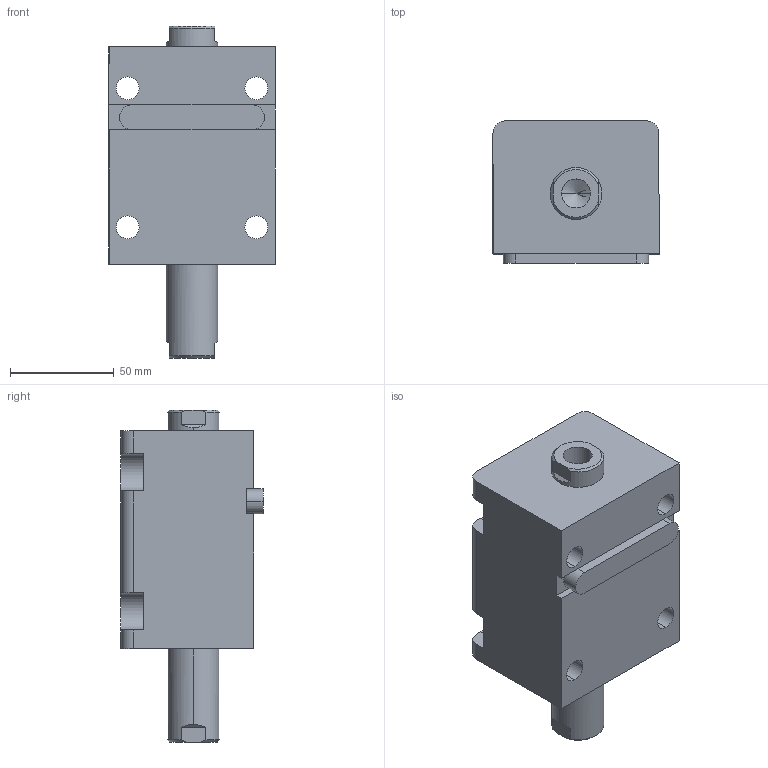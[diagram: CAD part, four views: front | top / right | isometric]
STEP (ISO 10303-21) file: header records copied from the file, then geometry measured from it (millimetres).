
FILE_DESCRIPTION (( 'STEP AP203' ), '1' );
FILE_NAME ('HTB-LW40-35N.STEP', '2019-10-09T07:55:00', ( '微软用户' ), ( '微软中国' ), 'SwSTEP 2.0', 'SolidWorks 2012', '' );
FILE_SCHEMA (( 'CONFIG_CONTROL_DESIGN' ));
Length unit declared in the file: millimetre
Products named in the file (4): HTB-LW40-35N; HTB-LW40-35掛极; HTB-LW40-35N活塞杆; HTB-LA40-瑩
Assembly tree (3 placements, depth 2):
  HTB-LW40-35N
    HTB-LW40-35掛极
    HTB-LW40-35N活塞杆
    HTB-LA40-瑩
Bounding box: 80 x 68.5 x 160 mm (x, y, z)
Volume: 497142.4 mm3; surface area: 80793.8 mm2
Topology: 3 solids, 3 shells, 105 faces, 261 edges, 168 vertices
Faces by surface type: plane 44, cylinder 41, cone 12, torus 8
Entity records: 3567 total; most frequent: CARTESIAN_POINT 588, DIRECTION 573, ORIENTED_EDGE 514, EDGE_CURVE 257, AXIS2_PLACEMENT_3D 221, VERTEX_POINT 168, LINE 131, VECTOR 131
